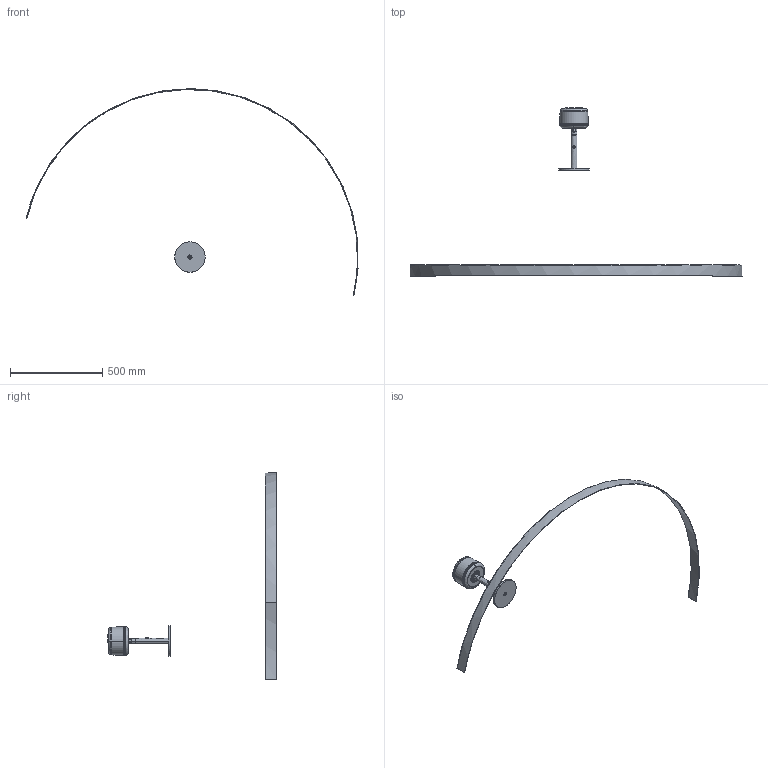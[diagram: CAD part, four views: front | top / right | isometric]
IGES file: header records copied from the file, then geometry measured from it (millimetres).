
Start section: SolidWorks IGES file using analytic representation for surfaces
Global section: file name: C:\SANTACOLE_PDM\Proyectos Catálogo\PROD-P09-025 -- Oco\6_TECNICO COMERCIAL\3D\OCO33Base.IGS; native system: SolidWorks 2019; preprocessor: SolidWorks 2019; author: louis.ferraz; date: 200406.114407; units: millimetre
Bounding box: 1800.62 x 913.32 x 1121.25 mm (x, y, z)
Surface area: 614688.5 mm2 (no closed solid volume)
Topology: 0 solids, 0 shells, 6992 faces, 44848 edges, 44818 vertices
Faces by surface type: bspline 6732, revolution 260
